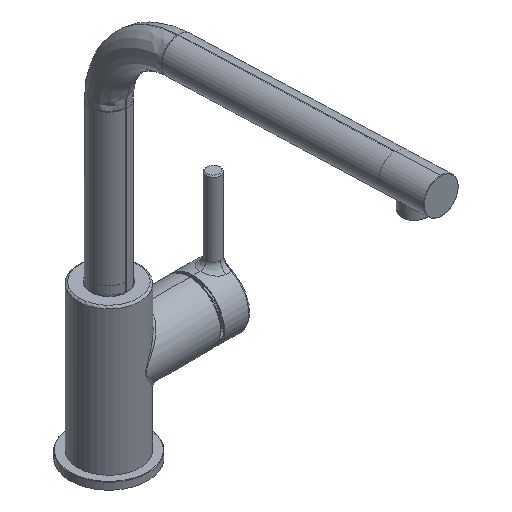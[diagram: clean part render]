
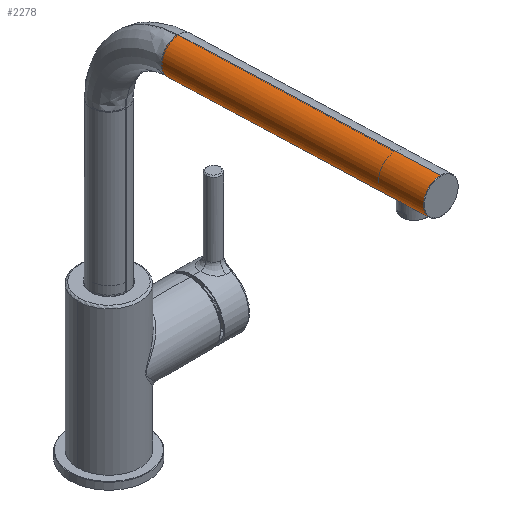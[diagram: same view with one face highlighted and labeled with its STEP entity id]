
A CAD part, isometric view. The second image highlights one B-rep face of the part: STEP entity #2278.
In plain terms, the highlighted cylindrical face has radius 12 mm (diameter 24 mm), a partial arc.
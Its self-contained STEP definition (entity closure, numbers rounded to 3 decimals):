
#33=TRIMMED_CURVE($,#774,(#20338),(#20339),.T.,.CARTESIAN.);
#39=TRIMMED_CURVE($,#780,(#20418),(#20419),.T.,.CARTESIAN.);
#774=CIRCLE('',#14841,12.);
#780=CIRCLE('',#14847,12.);
#1722=CYLINDRICAL_SURFACE('',#14818,12.);
#2278=ADVANCED_FACE('',(#3138),#1722,.T.);
#3138=FACE_OUTER_BOUND('',#3945,.T.);
#3945=EDGE_LOOP('',(#5536,#5537,#5538,#5539,#5540,#5541,#5542));
#5536=ORIENTED_EDGE('',*,*,#8998,.T.);
#5537=ORIENTED_EDGE('',*,*,#9003,.F.);
#5538=ORIENTED_EDGE('',*,*,#9011,.T.);
#5539=ORIENTED_EDGE('',*,*,#9005,.F.);
#5540=ORIENTED_EDGE('',*,*,#9010,.T.);
#5541=ORIENTED_EDGE('',*,*,#9009,.T.);
#5542=ORIENTED_EDGE('',*,*,#9008,.F.);
#8998=EDGE_CURVE('',#12062,#12063,#33,.T.);
#9003=EDGE_CURVE('',#12064,#12063,#10968,.T.);
#9005=EDGE_CURVE('',#12066,#12065,#10969,.T.);
#9008=EDGE_CURVE('',#12062,#12068,#10972,.T.);
#9009=EDGE_CURVE('',#12069,#12068,#10973,.T.);
#9010=EDGE_CURVE('',#12066,#12069,#10974,.T.);
#9011=EDGE_CURVE('',#12064,#12065,#39,.T.);
#10968=B_SPLINE_CURVE_WITH_KNOTS('',1,(#20352,#20353),.UNSPECIFIED.,.F.,
 .F.,(2,2),(-181.556,0.),.UNSPECIFIED.);
#10969=B_SPLINE_CURVE_WITH_KNOTS('',1,(#20357,#20358),.UNSPECIFIED.,.F.,
 .F.,(2,2),(-153.756,0.),.UNSPECIFIED.);
#10972=B_SPLINE_CURVE_WITH_KNOTS('',1,(#20387,#20388),.UNSPECIFIED.,.F.,
 .F.,(2,2),(-9.6,0.),.UNSPECIFIED.);
#10973=B_SPLINE_CURVE_WITH_KNOTS('',3,(#20389,#20390,#20391,#20392,#20393,
#20394,#20395,#20396,#20397,#20398,#20399,#20400,#20401,#20402),
 .UNSPECIFIED.,.F.,.F.,(4,1,1,1,1,1,1,1,1,1,1,4),(-15.072,-13.702,
-12.331,-10.961,-9.591,-8.221,
-6.851,-5.481,-4.11,-2.74,
-1.37,0.),.UNSPECIFIED.);
#10974=B_SPLINE_CURVE_WITH_KNOTS('',3,(#20403,#20404,#20405,#20406,#20407,
#20408,#20409,#20410,#20411,#20412,#20413,#20414,#20415,#20416),
 .UNSPECIFIED.,.F.,.F.,(4,1,1,1,1,1,1,1,1,1,1,4),(-15.071,-13.701,
-12.331,-10.961,-9.591,-8.22,
-6.85,-5.48,-4.11,-2.74,
-1.37,0.),.UNSPECIFIED.);
#12062=VERTEX_POINT('',#20289);
#12063=VERTEX_POINT('',#20290);
#12064=VERTEX_POINT('',#20291);
#12065=VERTEX_POINT('',#20292);
#12066=VERTEX_POINT('',#20293);
#12068=VERTEX_POINT('',#20295);
#12069=VERTEX_POINT('',#20296);
#14818=AXIS2_PLACEMENT_3D('',#19833,#16192,$);
#14841=AXIS2_PLACEMENT_3D($,#20337,#16216,#16217);
#14847=AXIS2_PLACEMENT_3D($,#20417,#16228,#16229);
#16192=DIRECTION('',(-0.999,-0.035,0.));
#16216=DIRECTION('',(-0.999,-0.035,0.));
#16217=DIRECTION('',(0.035,-0.999,0.));
#16228=DIRECTION('',(0.999,0.035,0.));
#16229=DIRECTION('',(-0.035,0.999,0.));
#19833=CARTESIAN_POINT('',(138.978,165.821,0.));
#20289=CARTESIAN_POINT('',(230.119,156.997,0.));
#20290=CARTESIAN_POINT('',(229.281,180.982,0.));
#20291=CARTESIAN_POINT('',(47.836,174.646,0.));
#20292=CARTESIAN_POINT('',(48.674,150.661,0.));
#20293=CARTESIAN_POINT('',(202.336,156.027,0.));
#20295=CARTESIAN_POINT('',(220.525,156.662,0.));
#20296=CARTESIAN_POINT('',(211.285,160.519,9.1));
#20337=CARTESIAN_POINT('',(229.7,168.99,0.));
#20338=CARTESIAN_POINT('',(230.119,156.997,0.));
#20339=CARTESIAN_POINT('',(229.281,180.982,0.));
#20352=CARTESIAN_POINT('',(47.836,174.646,0.));
#20353=CARTESIAN_POINT('',(229.281,180.982,0.));
#20357=CARTESIAN_POINT('',(202.336,156.027,0.));
#20358=CARTESIAN_POINT('',(48.674,150.661,0.));
#20387=CARTESIAN_POINT('',(230.119,156.997,0.));
#20388=CARTESIAN_POINT('',(220.525,156.662,0.));
#20389=CARTESIAN_POINT('',(211.285,160.519,9.1));
#20390=CARTESIAN_POINT('',(211.657,160.532,9.1));
#20391=CARTESIAN_POINT('',(212.395,160.505,9.055));
#20392=CARTESIAN_POINT('',(213.5,160.313,8.851));
#20393=CARTESIAN_POINT('',(214.533,160.008,8.529));
#20394=CARTESIAN_POINT('',(215.478,159.639,8.114));
#20395=CARTESIAN_POINT('',(216.357,159.23,7.61));
#20396=CARTESIAN_POINT('',(217.241,158.764,6.967));
#20397=CARTESIAN_POINT('',(218.16,158.229,6.108));
#20398=CARTESIAN_POINT('',(219.082,157.647,4.942));
#20399=CARTESIAN_POINT('',(219.861,157.125,3.515));
#20400=CARTESIAN_POINT('',(220.406,156.746,1.787));
#20401=CARTESIAN_POINT('',(220.525,156.662,0.605));
#20402=CARTESIAN_POINT('',(220.525,156.662,0.));
#20403=CARTESIAN_POINT('',(202.336,156.027,0.));
#20404=CARTESIAN_POINT('',(202.336,156.027,0.586));
#20405=CARTESIAN_POINT('',(202.442,156.114,1.735));
#20406=CARTESIAN_POINT('',(202.933,156.509,3.429));
#20407=CARTESIAN_POINT('',(203.651,157.068,4.853));
#20408=CARTESIAN_POINT('',(204.522,157.71,6.037));
#20409=CARTESIAN_POINT('',(205.413,158.319,6.923));
#20410=CARTESIAN_POINT('',(206.27,158.853,7.58));
#20411=CARTESIAN_POINT('',(207.122,159.328,8.093));
#20412=CARTESIAN_POINT('',(208.044,159.768,8.516));
#20413=CARTESIAN_POINT('',(209.064,160.151,8.845));
#20414=CARTESIAN_POINT('',(210.16,160.425,9.053));
#20415=CARTESIAN_POINT('',(210.905,160.506,9.1));
#20416=CARTESIAN_POINT('',(211.285,160.519,9.1));
#20417=CARTESIAN_POINT('',(48.255,162.653,0.));
#20418=CARTESIAN_POINT('',(47.836,174.646,0.));
#20419=CARTESIAN_POINT('',(48.674,150.661,0.));
